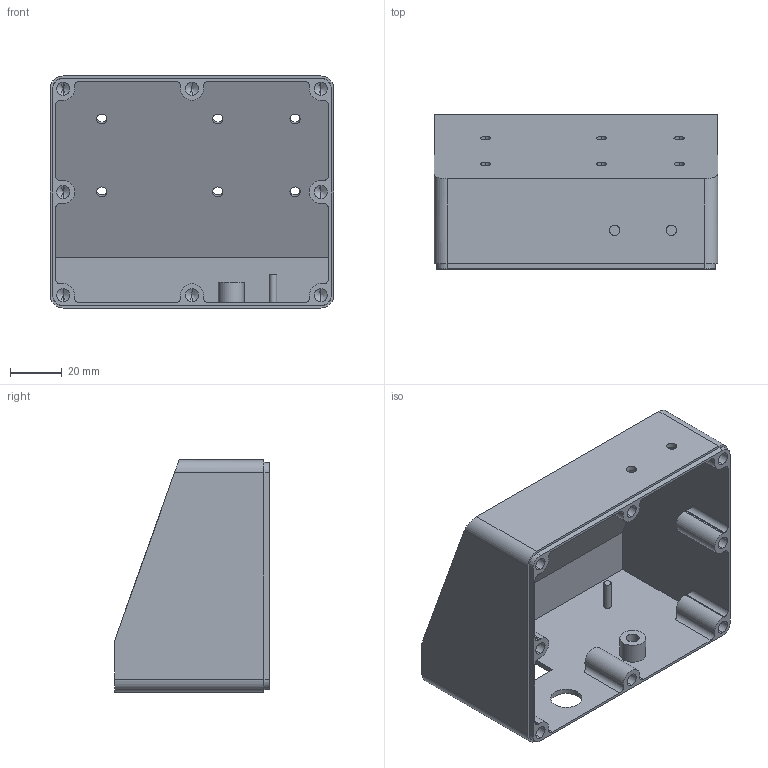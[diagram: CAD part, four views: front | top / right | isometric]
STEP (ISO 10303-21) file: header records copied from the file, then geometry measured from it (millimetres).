
FILE_DESCRIPTION (( 'STEP AP203' ), '1' );
FILE_NAME ('analog.STEP', '2023-12-03T07:25:22', ( '' ), ( '' ), 'SwSTEP 2.0', 'SolidWorks 2023', '' );
FILE_SCHEMA (( 'CONFIG_CONTROL_DESIGN' ));
Length unit declared in the file: millimetre
Products named in the file (1): analog
Bounding box: 110 x 60 x 90 mm (x, y, z)
Volume: 62045.8 mm3; surface area: 61685 mm2
Topology: 1 solids, 1 shells, 140 faces, 400 edges, 243 vertices
Faces by surface type: cylinder 79, cone 36, plane 25
Entity records: 4882 total; most frequent: CARTESIAN_POINT 1236, DIRECTION 757, ORIENTED_EDGE 736, EDGE_CURVE 368, AXIS2_PLACEMENT_3D 288, VERTEX_POINT 243, VECTOR 181, LINE 181
